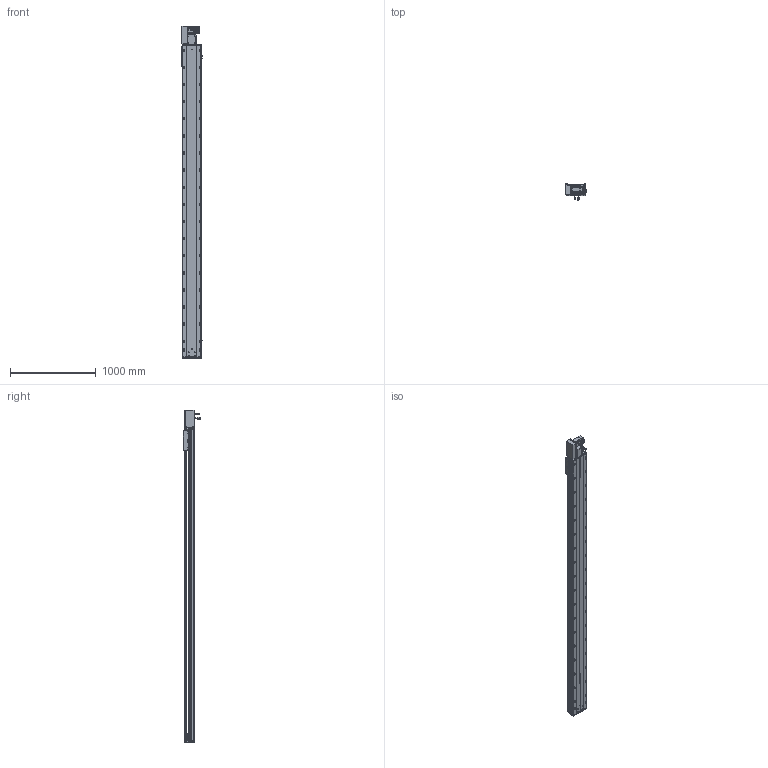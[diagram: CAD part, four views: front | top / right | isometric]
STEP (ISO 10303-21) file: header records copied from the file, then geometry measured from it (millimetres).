
FILE_DESCRIPTION (( 'STEP AP203' ), '1' );
FILE_NAME ('RY220-T-300-LK.SLDASM_3300.step', '2022-07-25T08:17:05', ( '' ), ( '' ), 'SwSTEP 2.0', 'SolidWorks 2016', '' );
FILE_SCHEMA (( 'CONFIG_CONTROL_DESIGN' ));
Length unit declared in the file: millimetre
Products named in the file (14): 滅袉蝶18-15; 覜茼ん672; 怢湛750W_ECMA-CX0807ES; RY220翋肮祭謫釱; RY220-T-蛌殏萇儂假蚾啣(750W); RY220-同步轮副支撑座6304×2; RY220-T-湍謫欶(鍼踢); RY220翋肮祭謫裔啣; RY220-俋离672覜茼んえ; RY220圉猾敕々湍臏賑輸; 110A-T-肮祭謫釱傷裔; RY220-T菁釱-300_3300; RY220-T-300-奻裔啣_3300; RY220-T-300-LK.SLDASM_3300
Assembly tree (18 placements, depth 2):
  RY220-T-300-LK.SLDASM_3300
    RY220-T菁釱-300_3300
    RY220翋肮祭謫釱
    覜茼ん672  x3
    RY220圉猾敕々湍臏賑輸
    RY220-T-300-奻裔啣_3300
    RY220-俋离672覜茼んえ
    滅袉蝶18-15  x3
    RY220翋肮祭謫裔啣  x2
    110A-T-肮祭謫釱傷裔
    怢湛750W_ECMA-CX0807ES
    RY220-T-湍謫欶(鍼踢)
    RY220-T-蛌殏萇儂假蚾啣(750W)
    RY220-同步轮副支撑座6304×2
Bounding box: 239.7 x 198.77 x 3879 mm (x, y, z)
Volume: 27143151.8 mm3; surface area: 8432319.8 mm2
Topology: 19 solids, 19 shells, 3096 faces, 8571 edges, 5354 vertices
Faces by surface type: cylinder 1544, plane 1069, cone 401, bspline 56, sphere 16, torus 10
Entity records: 103347 total; most frequent: CARTESIAN_POINT 29097, ORIENTED_EDGE 15322, DIRECTION 14860, EDGE_CURVE 7661, AXIS2_PLACEMENT_3D 5386, VERTEX_POINT 4978, VECTOR 4088, LINE 4088
